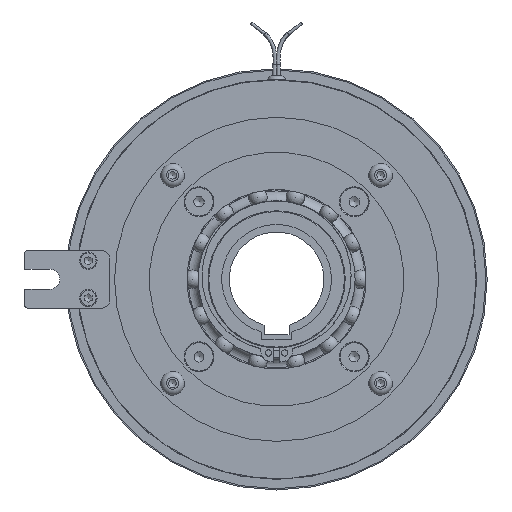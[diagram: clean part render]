
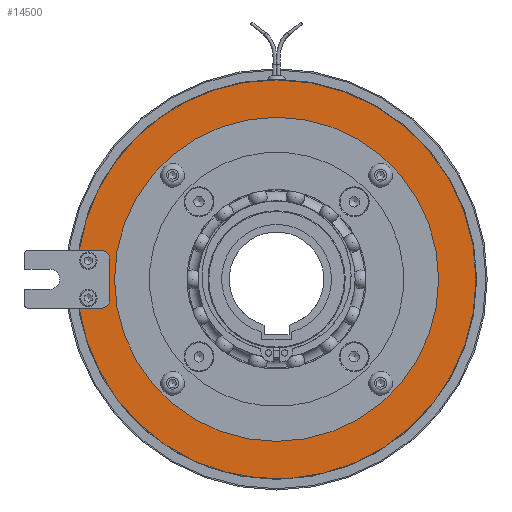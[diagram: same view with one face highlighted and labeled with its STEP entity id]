
A CAD part, left-side view. The second image highlights one B-rep face of the part: STEP entity #14500.
In plain terms, the highlighted planar face has unit normal (-1, 0, 0).
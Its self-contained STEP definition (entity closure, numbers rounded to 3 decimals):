
#988=FACE_BOUND('',#2849,.T.);
#1344=PLANE('',#15912);
#1976=FACE_OUTER_BOUND('',#2848,.T.);
#2848=EDGE_LOOP('',(#12103,#12104,#12105,#12106,#12107,#12108,#12109,#12110));
#2849=EDGE_LOOP('',(#12111,#12112));
#3603=LINE('',#27456,#4302);
#3604=LINE('',#27459,#4303);
#3605=LINE('',#27463,#4304);
#4302=VECTOR('',#19139,10.);
#4303=VECTOR('',#19142,10.);
#4304=VECTOR('',#19145,10.);
#5037=CIRCLE('',#15498,80.);
#5040=CIRCLE('',#15501,80.);
#5293=CIRCLE('',#15897,65.);
#5294=CIRCLE('',#15898,65.);
#5304=CIRCLE('',#15913,80.);
#5305=CIRCLE('',#15914,3.);
#5306=CIRCLE('',#15915,3.);
#6243=VERTEX_POINT('',#23064);
#6244=VERTEX_POINT('',#23066);
#6246=VERTEX_POINT('',#23070);
#6247=VERTEX_POINT('',#23072);
#6699=VERTEX_POINT('',#27426);
#6700=VERTEX_POINT('',#27427);
#6709=VERTEX_POINT('',#27455);
#6710=VERTEX_POINT('',#27458);
#6711=VERTEX_POINT('',#27460);
#6712=VERTEX_POINT('',#27462);
#8027=EDGE_CURVE('',#6244,#6243,#5037,.T.);
#8030=EDGE_CURVE('',#6247,#6246,#5040,.T.);
#8618=EDGE_CURVE('',#6699,#6700,#5293,.T.);
#8619=EDGE_CURVE('',#6700,#6699,#5294,.T.);
#8632=EDGE_CURVE('',#6709,#6244,#3603,.T.);
#8633=EDGE_CURVE('',#6243,#6247,#5304,.T.);
#8634=EDGE_CURVE('',#6246,#6710,#3604,.T.);
#8635=EDGE_CURVE('',#6710,#6711,#5305,.T.);
#8636=EDGE_CURVE('',#6711,#6712,#3605,.T.);
#8637=EDGE_CURVE('',#6712,#6709,#5306,.T.);
#12103=ORIENTED_EDGE('',*,*,#8632,.T.);
#12104=ORIENTED_EDGE('',*,*,#8027,.T.);
#12105=ORIENTED_EDGE('',*,*,#8633,.T.);
#12106=ORIENTED_EDGE('',*,*,#8030,.T.);
#12107=ORIENTED_EDGE('',*,*,#8634,.T.);
#12108=ORIENTED_EDGE('',*,*,#8635,.T.);
#12109=ORIENTED_EDGE('',*,*,#8636,.T.);
#12110=ORIENTED_EDGE('',*,*,#8637,.T.);
#12111=ORIENTED_EDGE('',*,*,#8618,.T.);
#12112=ORIENTED_EDGE('',*,*,#8619,.T.);
#14500=ADVANCED_FACE('',(#1976,#988),#1344,.T.);
#15498=AXIS2_PLACEMENT_3D('',#23067,#18233,#18234);
#15501=AXIS2_PLACEMENT_3D('',#23073,#18239,#18240);
#15897=AXIS2_PLACEMENT_3D('',#27428,#19104,#19105);
#15898=AXIS2_PLACEMENT_3D('',#27429,#19106,#19107);
#15912=AXIS2_PLACEMENT_3D('',#27454,#19137,#19138);
#15913=AXIS2_PLACEMENT_3D('',#27457,#19140,#19141);
#15914=AXIS2_PLACEMENT_3D('',#27461,#19143,#19144);
#15915=AXIS2_PLACEMENT_3D('',#27464,#19146,#19147);
#18233=DIRECTION('center_axis',(-1.,0.,0.));
#18234=DIRECTION('ref_axis',(0.,1.,0.));
#18239=DIRECTION('center_axis',(-1.,0.,0.));
#18240=DIRECTION('ref_axis',(0.,1.,0.));
#19104=DIRECTION('center_axis',(1.,0.,0.));
#19105=DIRECTION('ref_axis',(0.,1.,0.));
#19106=DIRECTION('center_axis',(1.,0.,0.));
#19107=DIRECTION('ref_axis',(0.,1.,0.));
#19137=DIRECTION('center_axis',(-1.,0.,0.));
#19138=DIRECTION('ref_axis',(0.,0.,
1.));
#19139=DIRECTION('',(0.,1.,0.));
#19140=DIRECTION('center_axis',(-1.,0.,0.));
#19141=DIRECTION('ref_axis',(0.,1.,0.));
#19142=DIRECTION('',(0.,-1.,0.));
#19143=DIRECTION('center_axis',(1.,0.,0.));
#19144=DIRECTION('ref_axis',(0.,-0.707,0.707));
#19145=DIRECTION('',(0.,0.,-1.));
#19146=DIRECTION('center_axis',(1.,0.,0.));
#19147=DIRECTION('ref_axis',(0.,-0.707,-0.707));
#23064=CARTESIAN_POINT('',(-45.,-80.,0.));
#23066=CARTESIAN_POINT('',(-45.,79.169,-11.5));
#23067=CARTESIAN_POINT('Origin',(-45.,0.,
0.));
#23070=CARTESIAN_POINT('',(-45.,79.169,11.5));
#23072=CARTESIAN_POINT('',(-45.,0.,80.));
#23073=CARTESIAN_POINT('Origin',(-45.,0.,
0.));
#27426=CARTESIAN_POINT('',(-45.,65.,0.));
#27427=CARTESIAN_POINT('',(-45.,-65.,0.));
#27428=CARTESIAN_POINT('Origin',(-45.,0.,
0.));
#27429=CARTESIAN_POINT('Origin',(-45.,0.,
0.));
#27454=CARTESIAN_POINT('Origin',(-45.,67.5,0.));
#27455=CARTESIAN_POINT('',(-45.,70.,-11.5));
#27456=CARTESIAN_POINT('',(-45.,84.25,-11.5));
#27457=CARTESIAN_POINT('Origin',(-45.,0.,
0.));
#27458=CARTESIAN_POINT('',(-45.,70.,11.5));
#27459=CARTESIAN_POINT('',(-45.,67.25,11.5));
#27460=CARTESIAN_POINT('',(-45.,67.,8.5));
#27461=CARTESIAN_POINT('Origin',(-45.,70.,8.5));
#27462=CARTESIAN_POINT('',(-45.,67.,-8.5));
#27463=CARTESIAN_POINT('',(-45.,67.,-5.75));
#27464=CARTESIAN_POINT('Origin',(-45.,70.,-8.5));
